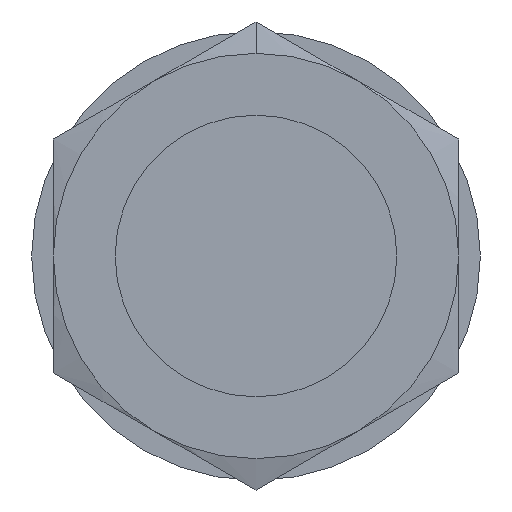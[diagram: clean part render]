
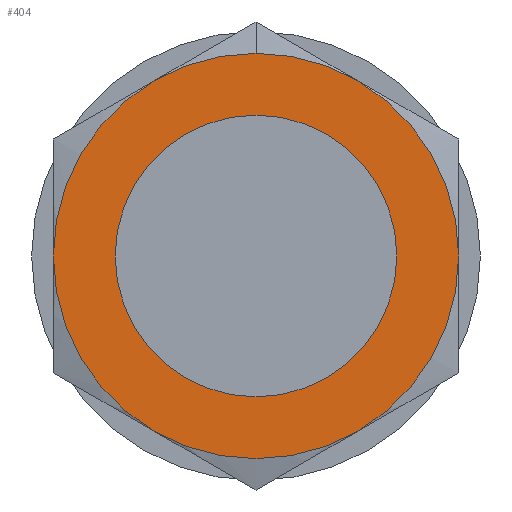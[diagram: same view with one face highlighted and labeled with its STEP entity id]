
A CAD part, front view. The second image highlights one B-rep face of the part: STEP entity #404.
In plain terms, the highlighted planar face has unit normal (0, -1, 0).
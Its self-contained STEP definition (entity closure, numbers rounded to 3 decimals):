
#103 = CARTESIAN_POINT ( 'NONE',  ( 0., 3., 0. ) ) ;
#134 = DIRECTION ( 'NONE',  ( 0., 0., -1. ) ) ;
#163 = DIRECTION ( 'NONE',  ( 0., -1., 0. ) ) ;
#173 = CARTESIAN_POINT ( 'NONE',  ( 0., 3., -4.864 ) ) ;
#181 = EDGE_CURVE ( 'NONE', #542, #1700, #1572, .T. ) ;
#207 = AXIS2_PLACEMENT_3D ( 'NONE', #462, #1417, #1016 ) ;
#217 = CIRCLE ( 'NONE', #468, 7. ) ;
#302 = DIRECTION ( 'NONE',  ( 0., 0., -1. ) ) ;
#342 = VERTEX_POINT ( 'NONE', #1475 ) ;
#366 = AXIS2_PLACEMENT_3D ( 'NONE', #418, #974, #1507 ) ;
#403 = VERTEX_POINT ( 'NONE', #539 ) ;
#404 = ADVANCED_FACE ( 'NONE', ( #678, #807 ), #1063, .F. ) ;
#418 = CARTESIAN_POINT ( 'NONE',  ( 0., 3., 0. ) ) ;
#419 = CARTESIAN_POINT ( 'NONE',  ( 0., 3., 0. ) ) ;
#425 = ORIENTED_EDGE ( 'NONE', *, *, #1536, .T. ) ;
#432 = CIRCLE ( 'NONE', #207, 7. ) ;
#433 = DIRECTION ( 'NONE',  ( 0., -1., 0. ) ) ;
#462 = CARTESIAN_POINT ( 'NONE',  ( 0., 3., 0. ) ) ;
#468 = AXIS2_PLACEMENT_3D ( 'NONE', #1118, #433, #794 ) ;
#520 = CARTESIAN_POINT ( 'NONE',  ( 3.5, 3., 6.062 ) ) ;
#539 = CARTESIAN_POINT ( 'NONE',  ( 0., 3., 7. ) ) ;
#542 = VERTEX_POINT ( 'NONE', #1133 ) ;
#544 = DIRECTION ( 'NONE',  ( 0., -1., 0. ) ) ;
#554 = CARTESIAN_POINT ( 'NONE',  ( 0., 3., 0. ) ) ;
#600 = CIRCLE ( 'NONE', #737, 7. ) ;
#615 = ORIENTED_EDGE ( 'NONE', *, *, #1277, .T. ) ;
#644 = DIRECTION ( 'NONE',  ( 0., -1., 0. ) ) ;
#649 = ORIENTED_EDGE ( 'NONE', *, *, #181, .F. ) ;
#678 = FACE_OUTER_BOUND ( 'NONE', #1029, .T. ) ;
#684 = ORIENTED_EDGE ( 'NONE', *, *, #1276, .F. ) ;
#717 = DIRECTION ( 'NONE',  ( 0., -1., 0. ) ) ;
#737 = AXIS2_PLACEMENT_3D ( 'NONE', #103, #644, #1721 ) ;
#755 = AXIS2_PLACEMENT_3D ( 'NONE', #419, #975, #1508 ) ;
#794 = DIRECTION ( 'NONE',  ( 0., 0., -1. ) ) ;
#807 = FACE_BOUND ( 'NONE', #981, .T. ) ;
#820 = CARTESIAN_POINT ( 'NONE',  ( 3.5, 3., -6.062 ) ) ;
#840 = CARTESIAN_POINT ( 'NONE',  ( 0., 3., 0. ) ) ;
#841 = CIRCLE ( 'NONE', #1301, 7. ) ;
#894 = VERTEX_POINT ( 'NONE', #820 ) ;
#922 = EDGE_CURVE ( 'NONE', #342, #1580, #1718, .T. ) ;
#931 = CIRCLE ( 'NONE', #1245, 4.864 ) ;
#974 = DIRECTION ( 'NONE',  ( 0., -1., 0. ) ) ;
#975 = DIRECTION ( 'NONE',  ( 0., -1., 0. ) ) ;
#981 = EDGE_LOOP ( 'NONE', ( #684, #649 ) ) ;
#983 = AXIS2_PLACEMENT_3D ( 'NONE', #1759, #544, #1622 ) ;
#1016 = DIRECTION ( 'NONE',  ( 0., 0., -1. ) ) ;
#1029 = EDGE_LOOP ( 'NONE', ( #1608, #1096, #615, #1123, #425, #1082, #1039 ) ) ;
#1039 = ORIENTED_EDGE ( 'NONE', *, *, #1418, .T. ) ;
#1063 = PLANE ( 'NONE',  #1398 ) ;
#1082 = ORIENTED_EDGE ( 'NONE', *, *, #1731, .T. ) ;
#1089 = DIRECTION ( 'NONE',  ( 1., 0., 0. ) ) ;
#1096 = ORIENTED_EDGE ( 'NONE', *, *, #922, .T. ) ;
#1104 = CARTESIAN_POINT ( 'NONE',  ( -3.5, 3., 6.062 ) ) ;
#1118 = CARTESIAN_POINT ( 'NONE',  ( 0., 3., 0. ) ) ;
#1123 = ORIENTED_EDGE ( 'NONE', *, *, #1321, .T. ) ;
#1133 = CARTESIAN_POINT ( 'NONE',  ( 0., 3., 4.864 ) ) ;
#1209 = CIRCLE ( 'NONE', #983, 7. ) ;
#1211 = VERTEX_POINT ( 'NONE', #1310 ) ;
#1245 = AXIS2_PLACEMENT_3D ( 'NONE', #554, #1624, #134 ) ;
#1272 = DIRECTION ( 'NONE',  ( 0., 0., -1. ) ) ;
#1276 = EDGE_CURVE ( 'NONE', #1700, #542, #931, .T. ) ;
#1277 = EDGE_CURVE ( 'NONE', #1580, #403, #217, .T. ) ;
#1301 = AXIS2_PLACEMENT_3D ( 'NONE', #1396, #717, #1272 ) ;
#1310 = CARTESIAN_POINT ( 'NONE',  ( -3.5, 3., -6.062 ) ) ;
#1313 = VERTEX_POINT ( 'NONE', #1104 ) ;
#1321 = EDGE_CURVE ( 'NONE', #403, #1313, #1526, .T. ) ;
#1396 = CARTESIAN_POINT ( 'NONE',  ( 0., 3., 0. ) ) ;
#1398 = AXIS2_PLACEMENT_3D ( 'NONE', #1491, #1745, #1089 ) ;
#1407 = VERTEX_POINT ( 'NONE', #1519 ) ;
#1417 = DIRECTION ( 'NONE',  ( 0., -1., 0. ) ) ;
#1418 = EDGE_CURVE ( 'NONE', #1211, #894, #841, .T. ) ;
#1475 = CARTESIAN_POINT ( 'NONE',  ( 7., 3., 0. ) ) ;
#1486 = AXIS2_PLACEMENT_3D ( 'NONE', #840, #163, #302 ) ;
#1491 = CARTESIAN_POINT ( 'NONE',  ( 7., 3., 0. ) ) ;
#1507 = DIRECTION ( 'NONE',  ( 0., 0., -1. ) ) ;
#1508 = DIRECTION ( 'NONE',  ( 0., 0., -1. ) ) ;
#1519 = CARTESIAN_POINT ( 'NONE',  ( -7., 3., 0. ) ) ;
#1526 = CIRCLE ( 'NONE', #755, 7. ) ;
#1536 = EDGE_CURVE ( 'NONE', #1313, #1407, #600, .T. ) ;
#1572 = CIRCLE ( 'NONE', #366, 4.864 ) ;
#1580 = VERTEX_POINT ( 'NONE', #520 ) ;
#1608 = ORIENTED_EDGE ( 'NONE', *, *, #1713, .T. ) ;
#1622 = DIRECTION ( 'NONE',  ( 0., 0., -1. ) ) ;
#1624 = DIRECTION ( 'NONE',  ( 0., -1., 0. ) ) ;
#1700 = VERTEX_POINT ( 'NONE', #173 ) ;
#1713 = EDGE_CURVE ( 'NONE', #894, #342, #1209, .T. ) ;
#1718 = CIRCLE ( 'NONE', #1486, 7. ) ;
#1721 = DIRECTION ( 'NONE',  ( 0., 0., -1. ) ) ;
#1731 = EDGE_CURVE ( 'NONE', #1407, #1211, #432, .T. ) ;
#1745 = DIRECTION ( 'NONE',  ( 0., 1., 0. ) ) ;
#1759 = CARTESIAN_POINT ( 'NONE',  ( 0., 3., 0. ) ) ;
